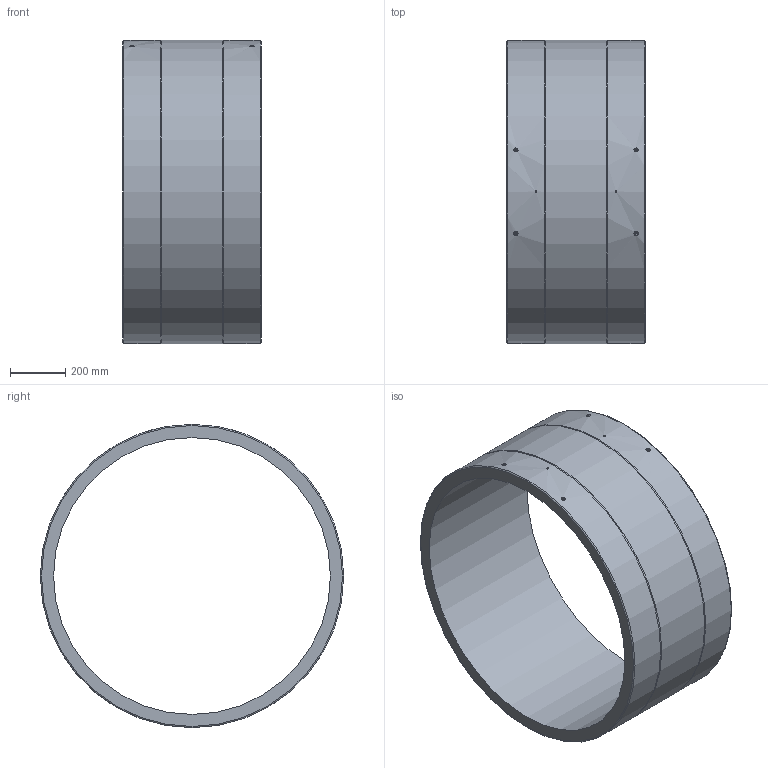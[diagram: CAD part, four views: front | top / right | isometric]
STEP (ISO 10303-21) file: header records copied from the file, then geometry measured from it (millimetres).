
FILE_DESCRIPTION(/* description */ ('Unknown'),/* implementation_level */ '2;1');
FILE_NAME(/* name */ 'MP1000A',/* time_stamp */ '2021-06-23T16:00:28+02:00',/* author */ ('Unknown'),/* organization */ ('Unknown'),/* preprocessor_version */ 'ST-DEVELOPER v16.7',/* originating_system */ 'Solid Edge',/* authorisation */ 'Unknown');
FILE_SCHEMA (('AUTOMOTIVE_DESIGN {1 0 10303 214 3 1 1}'));
Length unit declared in the file: millimetre
Products named in the file (1): MP1000A
Bounding box: 500 x 1096 x 1096 mm (x, y, z)
Volume: 78513510.4 mm3; surface area: 3595469 mm2
Topology: 1 solids, 1 shells, 34 faces, 65 edges, 41 vertices
Faces by surface type: cylinder 14, plane 12, bspline 4, cone 2, torus 2
Full cylindrical faces by diameter (mm): 4 x4, 6 x2, 13 x4, 1000 x1, 1095 x2, 1096 x1
Entity records: 1104 total; most frequent: CARTESIAN_POINT 531, DIRECTION 110, ORIENTED_EDGE 68, EDGE_LOOP 68, FACE_BOUND 68, AXIS2_PLACEMENT_3D 55, EDGE_CURVE 34, VERTEX_POINT 34
